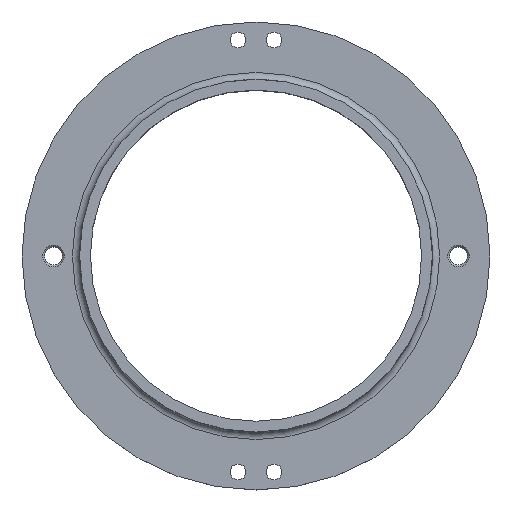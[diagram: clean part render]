
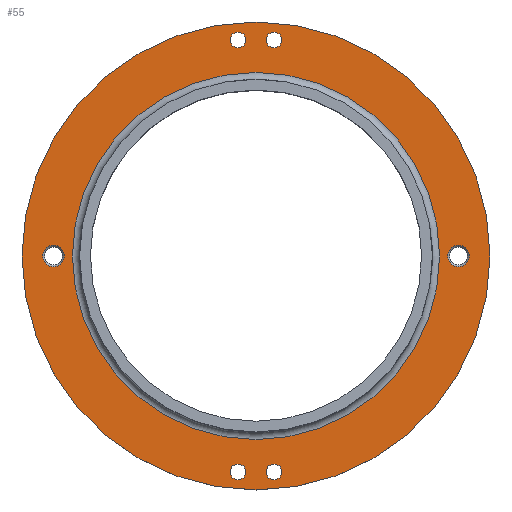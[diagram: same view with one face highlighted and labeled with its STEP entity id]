
A CAD part, top view. The second image highlights one B-rep face of the part: STEP entity #55.
In plain terms, the highlighted planar face has unit normal (0, 0, 1).
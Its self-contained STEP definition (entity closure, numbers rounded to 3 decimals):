
#49=PLANE('',#468);
#55=ADVANCED_FACE('',(#124,#125,#126,#127,#128,#129,#130,#131),#49,.F.);
#124=FACE_BOUND('',#202,.T.);
#125=FACE_BOUND('',#203,.T.);
#126=FACE_BOUND('',#204,.T.);
#127=FACE_BOUND('',#205,.T.);
#128=FACE_BOUND('',#206,.T.);
#129=FACE_BOUND('',#207,.T.);
#130=FACE_BOUND('',#208,.T.);
#131=FACE_BOUND('',#209,.T.);
#202=EDGE_LOOP('',(#280));
#203=EDGE_LOOP('',(#281));
#204=EDGE_LOOP('',(#282));
#205=EDGE_LOOP('',(#283));
#206=EDGE_LOOP('',(#284));
#207=EDGE_LOOP('',(#285));
#208=EDGE_LOOP('',(#286));
#209=EDGE_LOOP('',(#287));
#280=ORIENTED_EDGE('',*,*,#393,.T.);
#281=ORIENTED_EDGE('',*,*,#394,.T.);
#282=ORIENTED_EDGE('',*,*,#395,.F.);
#283=ORIENTED_EDGE('',*,*,#396,.F.);
#284=ORIENTED_EDGE('',*,*,#397,.T.);
#285=ORIENTED_EDGE('',*,*,#398,.T.);
#286=ORIENTED_EDGE('',*,*,#399,.T.);
#287=ORIENTED_EDGE('',*,*,#386,.F.);
#347=VERTEX_POINT('',#1113);
#354=VERTEX_POINT('',#1129);
#355=VERTEX_POINT('',#1131);
#356=VERTEX_POINT('',#1133);
#357=VERTEX_POINT('',#1135);
#358=VERTEX_POINT('',#1137);
#359=VERTEX_POINT('',#1139);
#360=VERTEX_POINT('',#1141);
#386=EDGE_CURVE('',#347,#347,#417,.T.);
#393=EDGE_CURVE('',#354,#354,#424,.T.);
#394=EDGE_CURVE('',#355,#355,#425,.T.);
#395=EDGE_CURVE('',#356,#356,#426,.T.);
#396=EDGE_CURVE('',#357,#357,#427,.T.);
#397=EDGE_CURVE('',#358,#358,#428,.T.);
#398=EDGE_CURVE('',#359,#359,#429,.T.);
#399=EDGE_CURVE('',#360,#360,#430,.T.);
#417=CIRCLE('',#452,65.);
#424=CIRCLE('',#461,2.2);
#425=CIRCLE('',#462,2.2);
#426=CIRCLE('',#463,2.2);
#427=CIRCLE('',#464,2.2);
#428=CIRCLE('',#465,51.);
#429=CIRCLE('',#466,3.);
#430=CIRCLE('',#467,3.);
#452=AXIS2_PLACEMENT_3D('',#1112,#522,#523);
#461=AXIS2_PLACEMENT_3D('',#1128,#540,#541);
#462=AXIS2_PLACEMENT_3D('',#1130,#542,#543);
#463=AXIS2_PLACEMENT_3D('',#1132,#544,#545);
#464=AXIS2_PLACEMENT_3D('',#1134,#546,#547);
#465=AXIS2_PLACEMENT_3D('',#1136,#548,#549);
#466=AXIS2_PLACEMENT_3D('',#1138,#550,#551);
#467=AXIS2_PLACEMENT_3D('',#1140,#552,#553);
#468=AXIS2_PLACEMENT_3D('',#1142,#554,#555);
#522=DIRECTION('',(0.,0.,-1.));
#523=DIRECTION('',(1.,0.,0.));
#540=DIRECTION('',(0.,0.,-1.));
#541=DIRECTION('',(1.,0.,0.));
#542=DIRECTION('',(0.,0.,-1.));
#543=DIRECTION('',(1.,0.,0.));
#544=DIRECTION('',(0.,0.,1.));
#545=DIRECTION('',(1.,0.,0.));
#546=DIRECTION('',(0.,0.,1.));
#547=DIRECTION('',(1.,0.,0.));
#548=DIRECTION('',(0.,0.,-1.));
#549=DIRECTION('',(-1.,0.,0.));
#550=DIRECTION('',(0.,0.,-1.));
#551=DIRECTION('',(-1.,0.,0.));
#552=DIRECTION('',(0.,0.,-1.));
#553=DIRECTION('',(-1.,0.,0.));
#554=DIRECTION('',(0.,0.,-1.));
#555=DIRECTION('',(-1.,0.,0.));
#1112=CARTESIAN_POINT('',(0.,0.,0.));
#1113=CARTESIAN_POINT('',(65.,0.,0.));
#1128=CARTESIAN_POINT('',(-5.,-60.,0.));
#1129=CARTESIAN_POINT('',(-2.8,-60.,0.));
#1130=CARTESIAN_POINT('',(5.,-60.,0.));
#1131=CARTESIAN_POINT('',(7.2,-60.,0.));
#1132=CARTESIAN_POINT('',(5.,60.,0.));
#1133=CARTESIAN_POINT('',(7.2,60.,0.));
#1134=CARTESIAN_POINT('',(-5.,60.,0.));
#1135=CARTESIAN_POINT('',(-2.8,60.,0.));
#1136=CARTESIAN_POINT('',(0.,0.,0.));
#1137=CARTESIAN_POINT('',(-51.,0.,0.));
#1138=CARTESIAN_POINT('',(-56.25,0.,0.));
#1139=CARTESIAN_POINT('',(-59.25,0.,0.));
#1140=CARTESIAN_POINT('',(56.25,0.,0.));
#1141=CARTESIAN_POINT('',(53.25,0.,0.));
#1142=CARTESIAN_POINT('',(0.,0.,0.));
